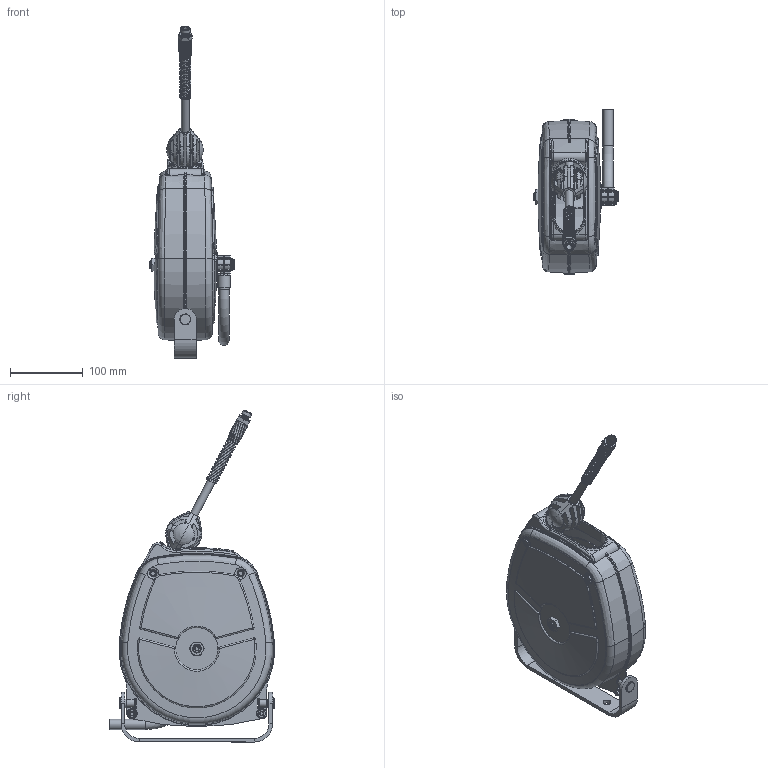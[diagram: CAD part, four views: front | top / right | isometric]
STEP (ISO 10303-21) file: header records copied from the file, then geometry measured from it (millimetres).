
FILE_DESCRIPTION (( 'STEP AP203' ), '1' );
FILE_NAME ('MP.STEP', '2021-03-17T07:05:04', ( '' ), ( '' ), 'SwSTEP 2.0', 'SolidWorks 2018', '' );
FILE_SCHEMA (( 'CONFIG_CONTROL_DESIGN' ));
Products named in the file (1): MP
Bounding box: 115.7 x 226.71 x 455.6 mm (x, y, z)
Surface area: 331891.2 mm2 (no closed solid volume)
Topology: 0 solids, 53 shells, 815 faces, 3002 edges, 2128 vertices
Faces by surface type: plane 246, cylinder 208, bspline 171, cone 93, torus 81, sphere 16
Full cylindrical faces by diameter (mm): 1.7 x2, 5 x2, 5.2 x1, 6 x4, 7.5 x1, 8 x1, 8.5 x1, 10 x1, 10.5 x3, 11 x2, 11.5 x1, 12 x2, 13.157 x1, 14 x2, 14.3 x2, 15 x4, 16 x2, 17 x2, 32.5 x1, 35.5 x1, 195 x2
Entity records: 45593 total; most frequent: CARTESIAN_POINT 23212, ORIENTED_EDGE 4283, DIRECTION 4242, EDGE_CURVE 2872, VERTEX_POINT 2097, AXIS2_PLACEMENT_3D 1719, CIRCLE 1080, B_SPLINE_CURVE_WITH_KNOTS 967
